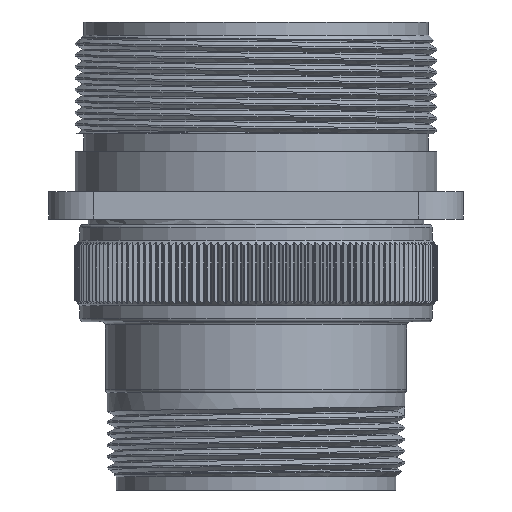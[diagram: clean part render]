
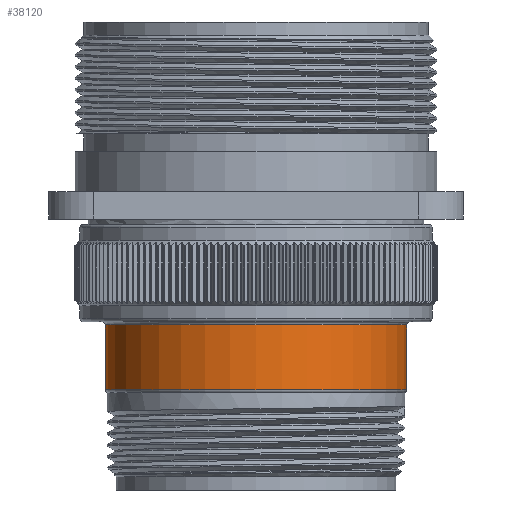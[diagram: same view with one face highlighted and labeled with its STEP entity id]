
A CAD part, front view. The second image highlights one B-rep face of the part: STEP entity #38120.
In plain terms, the highlighted cylindrical face has radius 18.455 mm (diameter 36.91 mm), a partial arc.
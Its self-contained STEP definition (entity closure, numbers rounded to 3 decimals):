
#3246 = CIRCLE ( 'NONE', #30900, 18.455 ) ;
#4042 = CARTESIAN_POINT ( 'NONE',  ( 18.455, 0., -45.093 ) ) ;
#5478 = ORIENTED_EDGE ( 'NONE', *, *, #73381, .F. ) ;
#5564 = EDGE_CURVE ( 'NONE', #81314, #43394, #26181, .T. ) ;
#9819 = ORIENTED_EDGE ( 'NONE', *, *, #5564, .T. ) ;
#13650 = VECTOR ( 'NONE', #49545, 1000. ) ;
#14230 = DIRECTION ( 'NONE',  ( 0., 0., 1. ) ) ;
#22961 = DIRECTION ( 'NONE',  ( 0., 0., -1. ) ) ;
#24103 = AXIS2_PLACEMENT_3D ( 'NONE', #28144, #35283, #57746 ) ;
#26181 = CIRCLE ( 'NONE', #38099, 18.455 ) ;
#28144 = CARTESIAN_POINT ( 'NONE',  ( 0., 0., -20.42 ) ) ;
#28168 = CARTESIAN_POINT ( 'NONE',  ( -18.455, 0., -45.093 ) ) ;
#29670 = DIRECTION ( 'NONE',  ( 0., 0., 1. ) ) ;
#30900 = AXIS2_PLACEMENT_3D ( 'NONE', #67104, #22961, #74512 ) ;
#35283 = DIRECTION ( 'NONE',  ( 0., 0., 1. ) ) ;
#35658 = LINE ( 'NONE', #86283, #13650 ) ;
#36284 = VECTOR ( 'NONE', #14230, 1000. ) ;
#38099 = AXIS2_PLACEMENT_3D ( 'NONE', #73800, #29670, #81271 ) ;
#38120 = ADVANCED_FACE ( 'NONE', ( #40073 ), #76971, .T. ) ;
#40073 = FACE_OUTER_BOUND ( 'NONE', #47100, .T. ) ;
#43394 = VERTEX_POINT ( 'NONE', #4042 ) ;
#43926 = CARTESIAN_POINT ( 'NONE',  ( 18.455, 0., -20.42 ) ) ;
#47100 = EDGE_LOOP ( 'NONE', ( #5478, #9819, #75663, #82480 ) ) ;
#48187 = EDGE_CURVE ( 'NONE', #43394, #82713, #55854, .T. ) ;
#49545 = DIRECTION ( 'NONE',  ( 0., 0., 1. ) ) ;
#55854 = LINE ( 'NONE', #43926, #36284 ) ;
#57746 = DIRECTION ( 'NONE',  ( 1., 0., 0. ) ) ;
#63641 = EDGE_CURVE ( 'NONE', #82713, #83760, #3246, .T. ) ;
#67104 = CARTESIAN_POINT ( 'NONE',  ( 0., 0., -37.13 ) ) ;
#71692 = CARTESIAN_POINT ( 'NONE',  ( 18.455, 0., -37.13 ) ) ;
#73381 = EDGE_CURVE ( 'NONE', #81314, #83760, #35658, .T. ) ;
#73800 = CARTESIAN_POINT ( 'NONE',  ( 0., 0., -45.093 ) ) ;
#74512 = DIRECTION ( 'NONE',  ( 1., 0., 0. ) ) ;
#75663 = ORIENTED_EDGE ( 'NONE', *, *, #48187, .T. ) ;
#76971 = CYLINDRICAL_SURFACE ( 'NONE', #24103, 18.455 ) ;
#81271 = DIRECTION ( 'NONE',  ( -1., 0., 0. ) ) ;
#81314 = VERTEX_POINT ( 'NONE', #28168 ) ;
#82480 = ORIENTED_EDGE ( 'NONE', *, *, #63641, .T. ) ;
#82713 = VERTEX_POINT ( 'NONE', #71692 ) ;
#83013 = CARTESIAN_POINT ( 'NONE',  ( -18.455, 0., -37.13 ) ) ;
#83760 = VERTEX_POINT ( 'NONE', #83013 ) ;
#86283 = CARTESIAN_POINT ( 'NONE',  ( -18.455, 0., -20.42 ) ) ;
